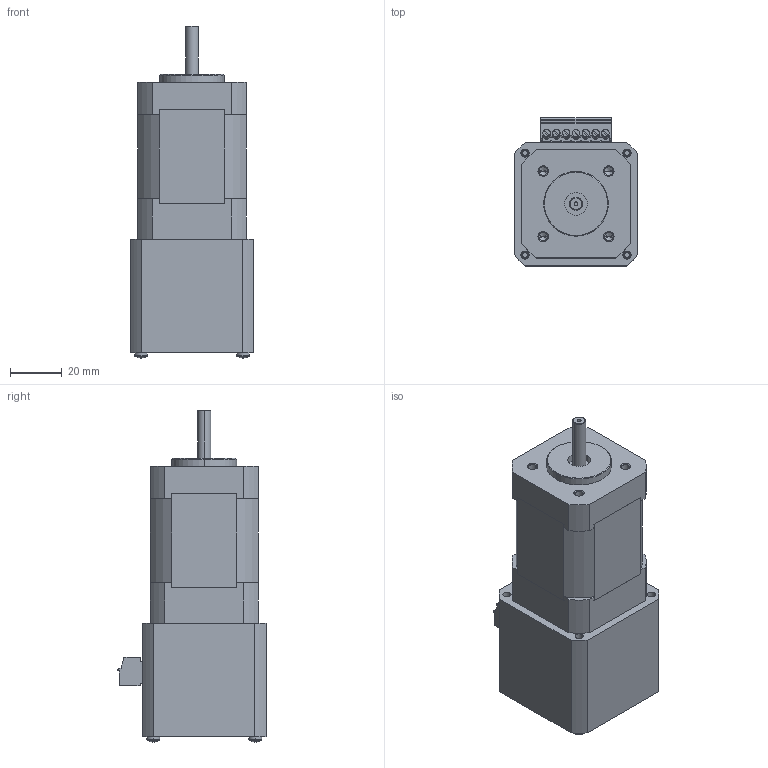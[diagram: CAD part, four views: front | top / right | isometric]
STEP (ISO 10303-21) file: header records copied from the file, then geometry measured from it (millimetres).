
FILE_DESCRIPTION (( 'STEP AP214' ), '1' );
FILE_NAME ('BLY17MD2S.STEP', '2010-06-08T22:19:29', ( 'Tim Raines' ), ( 'Anaheim Automation' ), 'SwSTEP 2.0', 'SolidWorks 2010', '' );
FILE_SCHEMA (( 'AUTOMOTIVE_DESIGN' ));
Length unit declared in the file: inch
Products named in the file (7): Pan Cross Head_AM_B18.6.7M - M2.5 x 0.45 x 25 Type I Cross Recessed PHMS --25S; Label for BLY17MD Series; BLY17MD Series driver_BLY17MD2; BLY17MD Series motor_BLY17MD2; BLY17MD2S; 1803620; 1803471
Assembly tree (9 placements, depth 2):
  BLY17MD2S
    BLY17MD Series motor_BLY17MD2
    1803471
    Pan Cross Head_AM_B18.6.7M - M2.5 x 0.45 x 25 Type I Cross Recessed PHMS --25S  x4
    Label for BLY17MD Series
    BLY17MD Series driver_BLY17MD2
    1803620
Bounding box: 48.01 x 57.51 x 128.87 mm (x, y, z)
Volume: 204669.4 mm3; surface area: 36192.4 mm2
Topology: 9 solids, 9 shells, 2824 faces, 7369 edges, 4700 vertices
Faces by surface type: plane 988, cone 931, cylinder 760, bspline 129, torus 8, sphere 8
Entity records: 77006 total; most frequent: CARTESIAN_POINT 15902, ORIENTED_EDGE 9064, DIRECTION 8694, EDGE_CURVE 4532, VERTEX_POINT 2948, LINE 2900, VECTOR 2900, AXIS2_PLACEMENT_3D 2897
